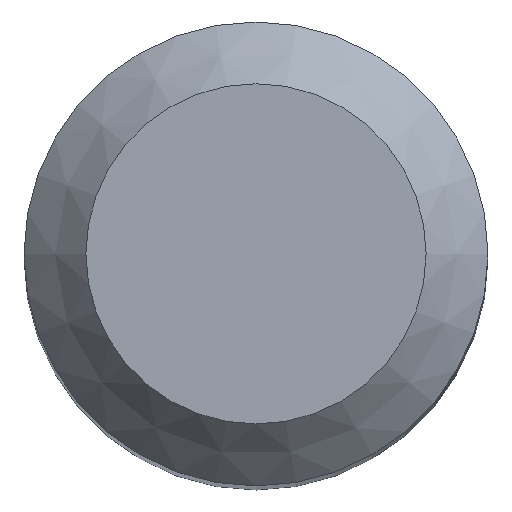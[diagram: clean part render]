
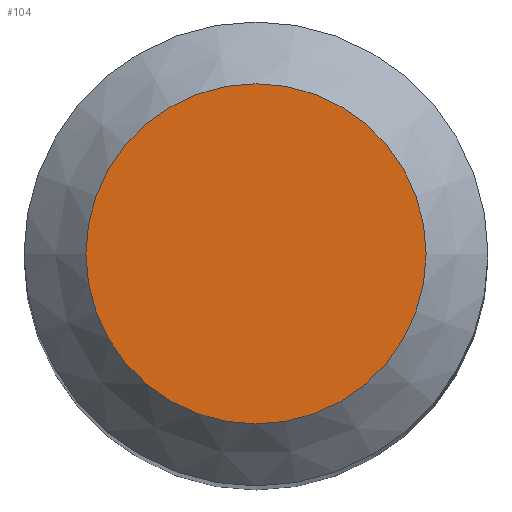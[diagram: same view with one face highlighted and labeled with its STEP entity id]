
A CAD part, top view. The second image highlights one B-rep face of the part: STEP entity #104.
In plain terms, the highlighted planar face has unit normal (0, 0, 1).
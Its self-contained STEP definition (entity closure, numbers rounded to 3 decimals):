
#88=CARTESIAN_POINT('',(2.2,0.0,45.0));
#89=DIRECTION('',(0.0,0.0,1.0));
#90=DIRECTION('',(1.0,0.0,0.0));
#91=AXIS2_PLACEMENT_3D('',#88,#89,#90);
#92=PLANE('',#91);
#93=CARTESIAN_POINT('',(-2.2,0.0,45.0));
#94=VERTEX_POINT('',#93);
#95=CARTESIAN_POINT('',(0.0,0.0,45.0));
#96=DIRECTION('',(0.0,0.0,-1.0));
#97=DIRECTION('',(-1.0,0.0,0.0));
#98=AXIS2_PLACEMENT_3D('',#95,#96,#97);
#99=CIRCLE('',#98,2.2);
#100=EDGE_CURVE('',#94,#94,#99,.T.);
#101=ORIENTED_EDGE('',*,*,#100,.F.);
#102=EDGE_LOOP('',(#101));
#103=FACE_OUTER_BOUND('',#102,.T.);
#104=ADVANCED_FACE('',(#103),#92,.T.);
